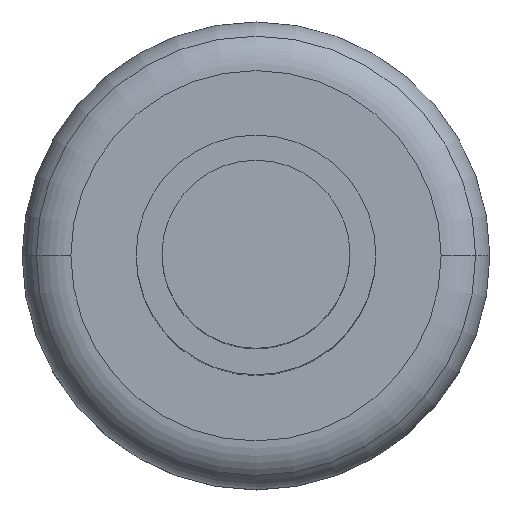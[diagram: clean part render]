
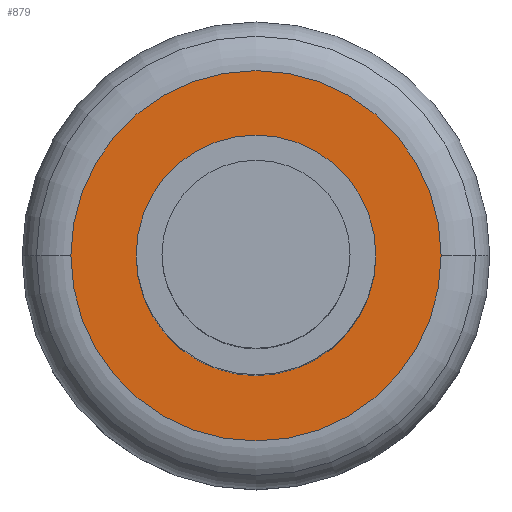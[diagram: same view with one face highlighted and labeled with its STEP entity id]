
A CAD part, top view. The second image highlights one B-rep face of the part: STEP entity #879.
In plain terms, the highlighted planar face has unit normal (0, 0, 1).
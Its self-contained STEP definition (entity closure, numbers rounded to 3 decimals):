
#400=CARTESIAN_POINT('',(-42.5,0.,2.45));
#401=DIRECTION('',(0.,0.,1.));
#402=DIRECTION('',(1.,0.,0.));
#403=AXIS2_PLACEMENT_3D('',#400,#401,#402);
#408=CARTESIAN_POINT('',(-42.5,0.,2.45));
#409=DIRECTION('',(0.,0.,1.));
#410=DIRECTION('',(-1.,0.,0.));
#411=AXIS2_PLACEMENT_3D('',#408,#409,#410);
#416=CARTESIAN_POINT('',(-42.5,0.,2.45));
#417=DIRECTION('',(0.,0.,-1.));
#418=DIRECTION('',(1.,0.,0.));
#419=AXIS2_PLACEMENT_3D('',#416,#417,#418);
#424=CARTESIAN_POINT('',(-42.5,0.,2.45));
#425=DIRECTION('',(0.,0.,-1.));
#426=DIRECTION('',(-1.,0.,0.));
#427=AXIS2_PLACEMENT_3D('',#424,#425,#426);
#748=CARTESIAN_POINT('',(-43.73,0.,2.45));
#749=CARTESIAN_POINT('',(-41.27,0.,2.45));
#750=VERTEX_POINT('',#748);
#751=VERTEX_POINT('',#749);
#764=CARTESIAN_POINT('',(-44.4,0.,2.45));
#765=VERTEX_POINT('',#764);
#766=CARTESIAN_POINT('',(-40.6,0.,2.45));
#767=VERTEX_POINT('',#766);
#864=CARTESIAN_POINT('',(-42.5,0.,2.45));
#865=DIRECTION('',(0.,0.,1.));
#866=DIRECTION('',(1.,0.,0.));
#867=AXIS2_PLACEMENT_3D('',#864,#865,#866);
#868=PLANE('',#867);
#870=ORIENTED_EDGE('',*,*,#869,.F.);
#872=ORIENTED_EDGE('',*,*,#871,.F.);
#873=EDGE_LOOP('',(#870,#872));
#874=FACE_OUTER_BOUND('',#873,.F.);
#875=ORIENTED_EDGE('',*,*,#858,.F.);
#876=ORIENTED_EDGE('',*,*,#844,.F.);
#877=EDGE_LOOP('',(#875,#876));
#878=FACE_BOUND('',#877,.F.);
#879=ADVANCED_FACE('',(#874,#878),#868,.T.);
#404=CIRCLE('',#403,1.9);
#412=CIRCLE('',#411,1.9);
#420=CIRCLE('',#419,1.23);
#428=CIRCLE('',#427,1.23);
#844=EDGE_CURVE('',#750,#751,#428,.T.);
#858=EDGE_CURVE('',#751,#750,#420,.T.);
#869=EDGE_CURVE('',#767,#765,#404,.T.);
#871=EDGE_CURVE('',#765,#767,#412,.T.);
